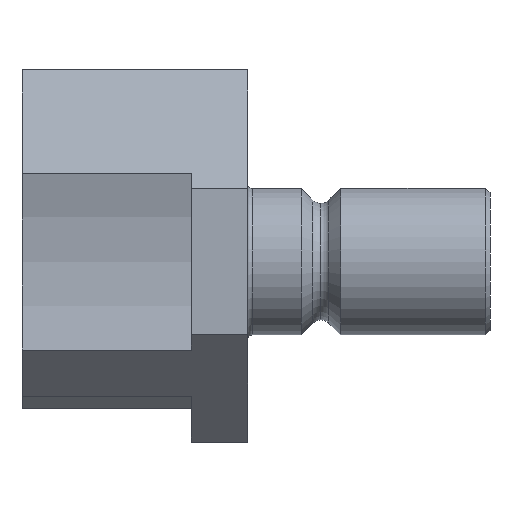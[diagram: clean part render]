
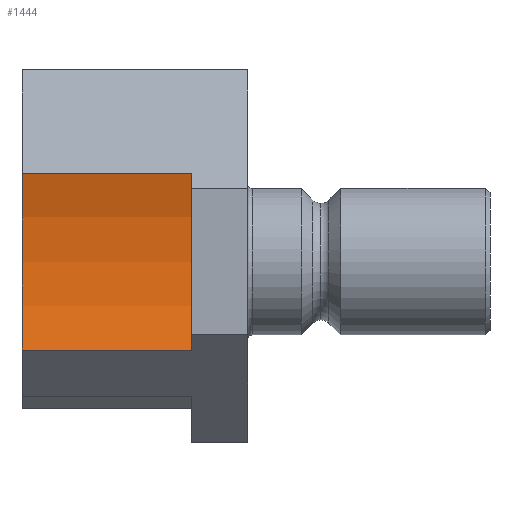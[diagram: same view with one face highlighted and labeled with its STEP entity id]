
A CAD part, left-side view. The second image highlights one B-rep face of the part: STEP entity #1444.
In plain terms, the highlighted cylindrical face has radius 27 mm (diameter 54 mm), a partial arc.
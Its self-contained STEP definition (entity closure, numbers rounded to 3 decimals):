
#10 = FACE_OUTER_BOUND ( 'NONE', #1106, .T. ) ;
#44 = CARTESIAN_POINT ( 'NONE',  ( -22.663, 20., -7.837 ) ) ;
#49 = DIRECTION ( 'NONE',  ( 0., 0., 1. ) ) ;
#84 = CARTESIAN_POINT ( 'NONE',  ( -22.663, 5., 7.837 ) ) ;
#110 = VERTEX_POINT ( 'NONE', #191 ) ;
#155 = DIRECTION ( 'NONE',  ( 0., 0., 1. ) ) ;
#171 = DIRECTION ( 'NONE',  ( 0., 1., 0. ) ) ;
#191 = CARTESIAN_POINT ( 'NONE',  ( -22.663, 20., 7.837 ) ) ;
#288 = CYLINDRICAL_SURFACE ( 'NONE', #897, 27. ) ;
#334 = CARTESIAN_POINT ( 'NONE',  ( -22.663, 5., -7.837 ) ) ;
#347 = CARTESIAN_POINT ( 'NONE',  ( -22.663, 5., -7.837 ) ) ;
#430 = CARTESIAN_POINT ( 'NONE',  ( -48.5, 5., 0. ) ) ;
#447 = EDGE_CURVE ( 'NONE', #1406, #1385, #1499, .T. ) ;
#456 = AXIS2_PLACEMENT_3D ( 'NONE', #430, #1104, #49 ) ;
#506 = AXIS2_PLACEMENT_3D ( 'NONE', #818, #171, #155 ) ;
#577 = LINE ( 'NONE', #334, #673 ) ;
#662 = CARTESIAN_POINT ( 'NONE',  ( -48.5, 5., 0. ) ) ;
#673 = VECTOR ( 'NONE', #1114, 1000. ) ;
#686 = DIRECTION ( 'NONE',  ( 0., 1., 0. ) ) ;
#710 = ORIENTED_EDGE ( 'NONE', *, *, #447, .F. ) ;
#736 = DIRECTION ( 'NONE',  ( 0., -1., 0. ) ) ;
#745 = LINE ( 'NONE', #1248, #1151 ) ;
#750 = EDGE_CURVE ( 'NONE', #110, #1251, #1008, .T. ) ;
#794 = ORIENTED_EDGE ( 'NONE', *, *, #1206, .F. ) ;
#818 = CARTESIAN_POINT ( 'NONE',  ( -48.5, 20., 0. ) ) ;
#897 = AXIS2_PLACEMENT_3D ( 'NONE', #662, #686, #1451 ) ;
#1008 = CIRCLE ( 'NONE', #506, 27. ) ;
#1104 = DIRECTION ( 'NONE',  ( 0., 1., 0. ) ) ;
#1106 = EDGE_LOOP ( 'NONE', ( #710, #794, #1694, #1299 ) ) ;
#1114 = DIRECTION ( 'NONE',  ( 0., 1., 0. ) ) ;
#1151 = VECTOR ( 'NONE', #736, 1000. ) ;
#1206 = EDGE_CURVE ( 'NONE', #110, #1406, #745, .T. ) ;
#1248 = CARTESIAN_POINT ( 'NONE',  ( -22.663, 5., 7.837 ) ) ;
#1251 = VERTEX_POINT ( 'NONE', #44 ) ;
#1299 = ORIENTED_EDGE ( 'NONE', *, *, #1671, .F. ) ;
#1385 = VERTEX_POINT ( 'NONE', #347 ) ;
#1406 = VERTEX_POINT ( 'NONE', #84 ) ;
#1444 = ADVANCED_FACE ( 'NONE', ( #10 ), #288, .F. ) ;
#1451 = DIRECTION ( 'NONE',  ( 0., 0., 1. ) ) ;
#1499 = CIRCLE ( 'NONE', #456, 27. ) ;
#1671 = EDGE_CURVE ( 'NONE', #1385, #1251, #577, .T. ) ;
#1694 = ORIENTED_EDGE ( 'NONE', *, *, #750, .T. ) ;
